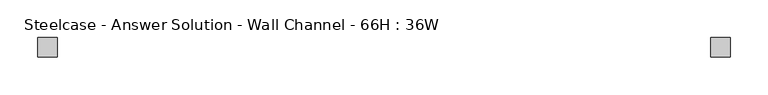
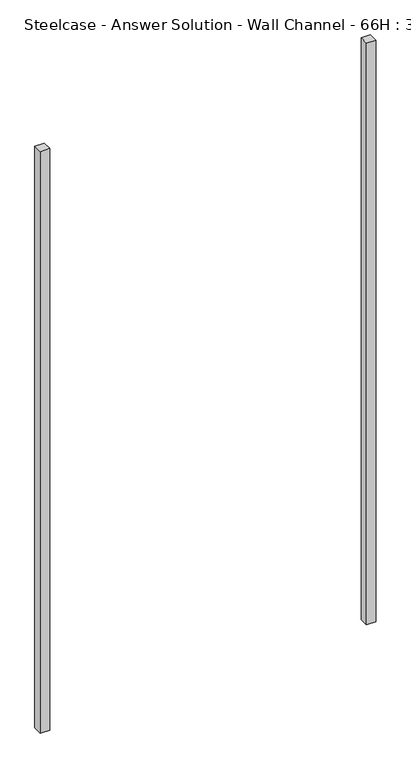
"""IFC4 building model written with IfcOpenShell, lengths in millimetres: furniture geometry, Steelcase - Answer Solution - Wall Channel - 66H : 36W."""

from ifc_helpers import new_model, si_unit, origin, origin_with_axes, place, context, project, spatial, polyline, outline, extrude, source, transform, mapped, element, save


def steelcase_answer_solution_wall_channel_66h_36w_325ca293(model_context):
    return source(origin(), model_context, "Body", "SweptSolid", [
        extrude(outline(polyline([(889.0, 0.0), (914.4, 0.0), (914.4, -25.4), (889.0, -25.4), (889.0, 0.0)])), origin_with_axes(), (0.0, 0.0, 1.0), 1673.225),
        extrude(outline(polyline([(25.4, 0.0), (25.4, -25.4), (0.0, -25.4), (0.0, 0.0), (25.4, 0.0)])), origin_with_axes(), (0.0, 0.0, 1.0), 1673.225),
    ])


if __name__ == "__main__":
    model = new_model("IFC4")
    model_context = context("Model", 3, world=origin())
    ifc_project = project(units=[si_unit("LENGTHUNIT", "METRE", prefix="MILLI")], contexts=[model_context])
    site = spatial("IfcSite", under=ifc_project)
    building = spatial("IfcBuilding", under=site)
    placement = place(None, origin())
    steelcase_answer_solution_wall_channel_66h_36w_shape = steelcase_answer_solution_wall_channel_66h_36w_325ca293(model_context)
    element("IfcFurniture", 1, ObjectType="Steelcase - Answer Solution - Wall Channel - 66H : 36W", at=placement, inside=building, context=model_context, shape_type="MappedRepresentation", body=[
        mapped(steelcase_answer_solution_wall_channel_66h_36w_shape, transform((0.0, 0.0, 0.0), x_axis=(1.0, 0.0, 0.0), y_axis=(0.0, 1.0, 0.0), z_axis=(0.0, 0.0, 1.0))),
    ])
    save(model, "model.ifc")
